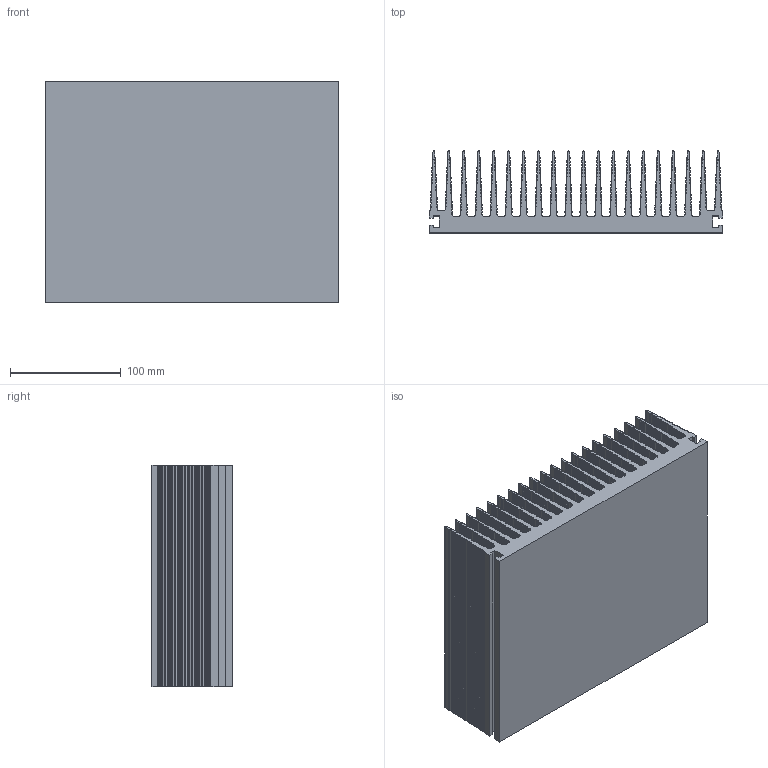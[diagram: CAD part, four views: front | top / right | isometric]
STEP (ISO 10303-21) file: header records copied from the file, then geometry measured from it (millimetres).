
FILE_DESCRIPTION (( 'STEP AP214' ), '1' );
FILE_NAME ('PR186.STEP', '2013-04-03T13:00:56', ( '' ), ( '' ), 'SwSTEP 2.0', 'SolidWorks 2012', '' );
FILE_SCHEMA (( 'AUTOMOTIVE_DESIGN' ));
Length unit declared in the file: millimetre
Products named in the file (1): PR186
Bounding box: 265 x 74 x 200 mm (x, y, z)
Volume: 1679010.5 mm3; surface area: 637843.9 mm2
Topology: 1 solids, 1 shells, 2193 faces, 6573 edges, 4382 vertices
Faces by surface type: cylinder 2075, plane 118
Entity records: 76511 total; most frequent: DIRECTION 15111, CARTESIAN_POINT 13149, ORIENTED_EDGE 13146, EDGE_CURVE 6573, AXIS2_PLACEMENT_3D 6344, VERTEX_POINT 4382, CIRCLE 4150, LINE 2423
